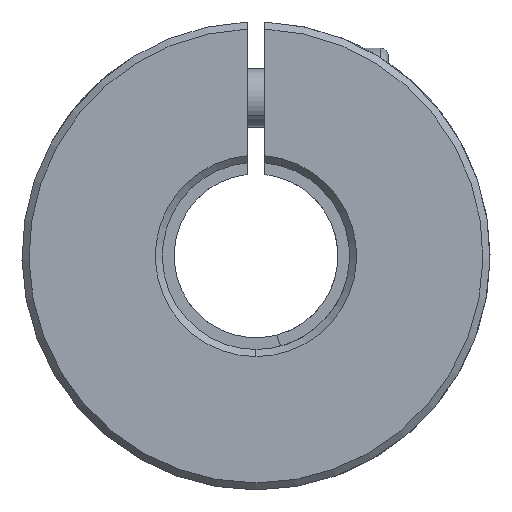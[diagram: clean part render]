
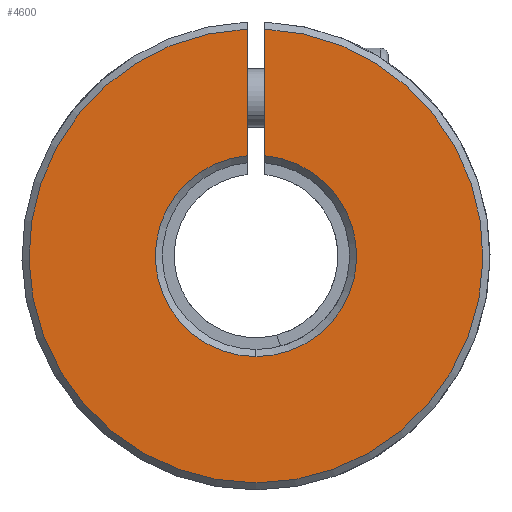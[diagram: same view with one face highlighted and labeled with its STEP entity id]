
A CAD part, front view. The second image highlights one B-rep face of the part: STEP entity #4600.
In plain terms, the highlighted planar face has unit normal (0, -1, 0).
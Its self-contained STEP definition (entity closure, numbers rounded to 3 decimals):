
#36 = EDGE_CURVE ( 'NONE', #3833, #3061, #93, .T. ) ;
#93 = LINE ( 'NONE', #2746, #1839 ) ;
#349 = DIRECTION ( 'NONE',  ( 0., 1., 0. ) ) ;
#433 = EDGE_CURVE ( 'NONE', #3061, #2767, #5499, .T. ) ;
#877 = DIRECTION ( 'NONE',  ( 0., 0., 1. ) ) ;
#1138 = ORIENTED_EDGE ( 'NONE', *, *, #433, .T. ) ;
#1194 = CIRCLE ( 'NONE', #3268, 8.6 ) ;
#1345 = ORIENTED_EDGE ( 'NONE', *, *, #2150, .T. ) ;
#1487 = EDGE_CURVE ( 'NONE', #5486, #3288, #1194, .T. ) ;
#1839 = VECTOR ( 'NONE', #4412, 1000. ) ;
#1882 = ORIENTED_EDGE ( 'NONE', *, *, #1487, .T. ) ;
#1898 = CARTESIAN_POINT ( 'NONE',  ( 0., -25., 0. ) ) ;
#2061 = DIRECTION ( 'NONE',  ( 0., -1., 0. ) ) ;
#2150 = EDGE_CURVE ( 'NONE', #3288, #3833, #3185, .T. ) ;
#2159 = DIRECTION ( 'NONE',  ( 0., 0., 1. ) ) ;
#2356 = VECTOR ( 'NONE', #5537, 1000. ) ;
#2363 = CARTESIAN_POINT ( 'NONE',  ( -0.75, -25., 19.385 ) ) ;
#2493 = CARTESIAN_POINT ( 'NONE',  ( 0.75, -25., 19.385 ) ) ;
#2701 = AXIS2_PLACEMENT_3D ( 'NONE', #3427, #2061, #4301 ) ;
#2746 = CARTESIAN_POINT ( 'NONE',  ( -0.75, -25., -6. ) ) ;
#2767 = VERTEX_POINT ( 'NONE', #2493 ) ;
#2835 = ORIENTED_EDGE ( 'NONE', *, *, #5097, .T. ) ;
#3061 = VERTEX_POINT ( 'NONE', #2363 ) ;
#3185 = CIRCLE ( 'NONE', #5515, 8.6 ) ;
#3245 = CARTESIAN_POINT ( 'NONE',  ( 0., -25., -8.6 ) ) ;
#3268 = AXIS2_PLACEMENT_3D ( 'NONE', #3942, #3519, #877 ) ;
#3288 = VERTEX_POINT ( 'NONE', #3245 ) ;
#3426 = AXIS2_PLACEMENT_3D ( 'NONE', #4491, #349, #2159 ) ;
#3427 = CARTESIAN_POINT ( 'NONE',  ( 0., -25., 0. ) ) ;
#3519 = DIRECTION ( 'NONE',  ( 0., 1., 0. ) ) ;
#3833 = VERTEX_POINT ( 'NONE', #3844 ) ;
#3844 = CARTESIAN_POINT ( 'NONE',  ( -0.75, -25., 8.567 ) ) ;
#3942 = CARTESIAN_POINT ( 'NONE',  ( 0., -25., 0. ) ) ;
#3945 = PLANE ( 'NONE',  #3426 ) ;
#4301 = DIRECTION ( 'NONE',  ( 0., 0., 1. ) ) ;
#4368 = FACE_OUTER_BOUND ( 'NONE', #5195, .T. ) ;
#4412 = DIRECTION ( 'NONE',  ( 0., 0., 1. ) ) ;
#4436 = DIRECTION ( 'NONE',  ( 0., 0., 1. ) ) ;
#4467 = DIRECTION ( 'NONE',  ( 0., 1., 0. ) ) ;
#4491 = CARTESIAN_POINT ( 'NONE',  ( 0., -25., 0. ) ) ;
#4525 = ORIENTED_EDGE ( 'NONE', *, *, #36, .T. ) ;
#4600 = ADVANCED_FACE ( 'NONE', ( #4368 ), #3945, .F. ) ;
#4669 = CARTESIAN_POINT ( 'NONE',  ( 0.75, -25., 8.567 ) ) ;
#5082 = CARTESIAN_POINT ( 'NONE',  ( 0.75, -25., -6. ) ) ;
#5097 = EDGE_CURVE ( 'NONE', #2767, #5486, #5367, .T. ) ;
#5195 = EDGE_LOOP ( 'NONE', ( #2835, #1882, #1345, #4525, #1138 ) ) ;
#5367 = LINE ( 'NONE', #5082, #2356 ) ;
#5486 = VERTEX_POINT ( 'NONE', #4669 ) ;
#5499 = CIRCLE ( 'NONE', #2701, 19.4 ) ;
#5515 = AXIS2_PLACEMENT_3D ( 'NONE', #1898, #4467, #4436 ) ;
#5537 = DIRECTION ( 'NONE',  ( 0., 0., -1. ) ) ;
